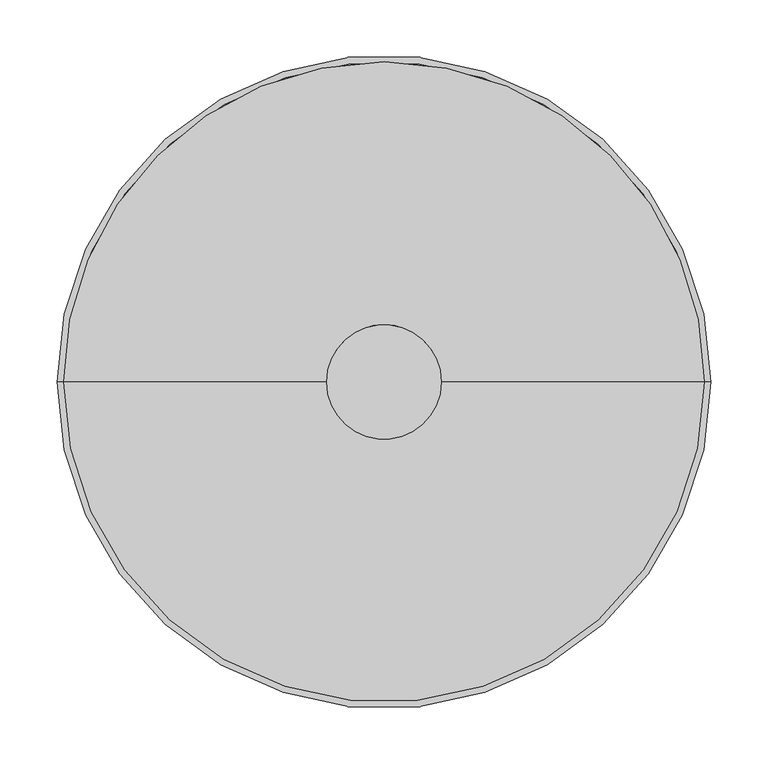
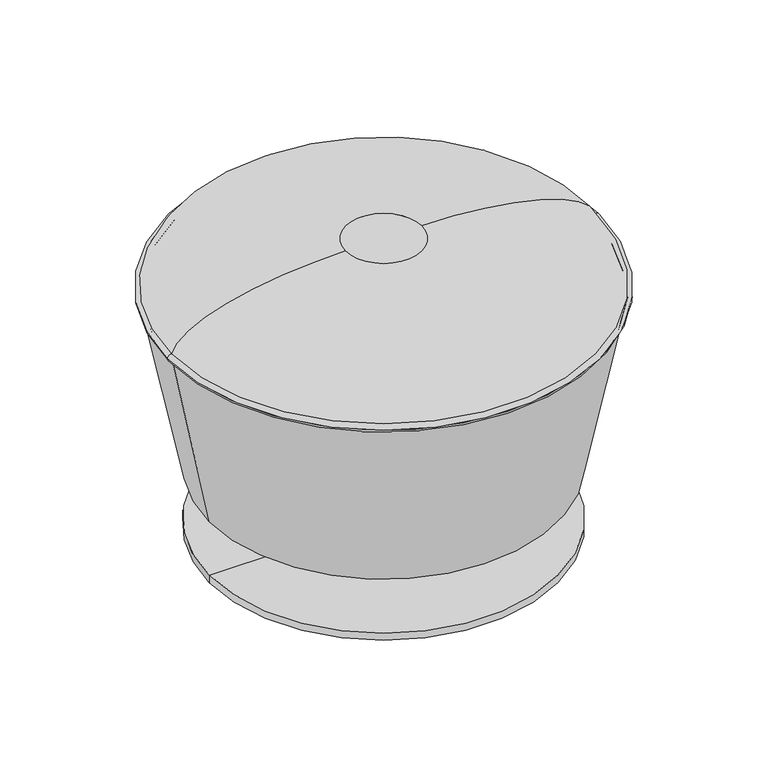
"""IFC4 building model written with IfcOpenShell, lengths in millimetres: furniture geometry, folies_bergere_2202 : folies_bergere_2202."""

from ifc_helpers import new_model, si_unit, point, frame, origin, place, context, project, spatial, polyline, circle_curve, ellipse_curve, trimmed, source, transform, mapped, element, save
from ifc_brep_helpers import plane_surface, cylinder_surface, revolved_surface, advanced_brep


def furniture_13e24988(model_context):
    return source(origin(), model_context, "Body", "AdvancedBrep", [
        advanced_brep(
        [(-50.0, 0.0, 399.6416858), (50.0, 0.0, 399.6416858), (275.0, 0.0, 331.4796982), (-275.0, 0.0, 331.4796982), (-279.3896078, 0.0, 336.4423005), (279.3896078, 0.0, 336.4423005), (-285.0, 0.0, 331.4796982), (285.0, 0.0, 331.4796982)],
        [
            (0, 1, circle_curve(frame((0.0, 0.0, 399.6416858), z_axis=(0.0, 0.0, 1.0), x_axis=(1.0, 0.0, 0.0)), 50.0)),
            (1, 0, circle_curve(frame((0.0, 0.0, 399.6416858), z_axis=(0.0, 0.0, 1.0), x_axis=(-1.0, 0.0, 0.0)), 50.0)),
            (2, 3, circle_curve(frame((0.0, 0.0, 331.4796982), z_axis=(0.0, 0.0, -1.0), x_axis=(1.0, 0.0, 0.0)), 275.0)),
            (3, 2, circle_curve(frame((0.0, 0.0, 331.4796982), z_axis=(0.0, 0.0, -1.0), x_axis=(-1.0, 0.0, 0.0)), 275.0)),
            (0, 4, ellipse_curve(frame((-50.0, 0.0, 331.4796982), z_axis=(0.0, -1.0, 0.0), x_axis=(-1.0, 0.0, 0.0)), 230.0, 68.1619876)),
            (4, 5, circle_curve(frame((0.0, 0.0, 336.4423005), z_axis=(0.0, 0.0, 1.0), x_axis=(1.0, 0.0, 0.0)), 279.3896078)),
            (5, 1, ellipse_curve(frame((50.0, 0.0, 331.4796982), z_axis=(0.0, -1.0, 0.0), x_axis=(1.0, 0.0, 0.0)), 230.0, 68.1619876)),
            (5, 4, circle_curve(frame((0.0, 0.0, 336.4423005), z_axis=(0.0, 0.0, 1.0), x_axis=(-1.0, 0.0, 0.0)), 279.3896078)),
            (6, 7, circle_curve(frame((0.0, 0.0, 331.4796982), z_axis=(0.0, 0.0, 1.0), x_axis=(1.0, 0.0, 0.0)), 285.0)),
            (7, 5, circle_curve(frame((280.0, 0.0, 331.4796982), z_axis=(0.0, -1.0, 0.0), x_axis=(1.0, 0.0, 0.0)), 5.0)),
            (4, 6, circle_curve(frame((-280.0, 0.0, 331.4796982), z_axis=(0.0, -1.0, 0.0), x_axis=(-1.0, 0.0, 0.0)), 5.0)),
            (6, 3, circle_curve(frame((-280.0, 0.0, 331.4796982), z_axis=(0.0, -1.0, 0.0), x_axis=(-1.0, 0.0, 0.0)), 5.0)),
            (2, 7, circle_curve(frame((280.0, 0.0, 331.4796982), z_axis=(0.0, -1.0, 0.0), x_axis=(1.0, 0.0, 0.0)), 5.0)),
            (7, 6, circle_curve(frame((0.0, 0.0, 331.4796982), z_axis=(0.0, 0.0, 1.0), x_axis=(-1.0, 0.0, 0.0)), 285.0)),
        ],
        [
            plane_surface(frame((16.25, 0.0, 399.6416858), z_axis=(0.0, 0.0, 1.0), x_axis=(0.0, 1.0, 0.0))),
            plane_surface(frame((16.25, 0.0, 331.4796982), z_axis=(0.0, 0.0, -1.0), x_axis=(0.0, -1.0, 0.0))),
            revolved_surface(trimmed(ellipse_curve(frame((50.0, 0.0, 331.4796982), z_axis=(0.0, 1.0, 0.0), x_axis=(1.0, 0.0, 0.0)), 230.0, 68.1619876), [point((50.0, 0.0, 399.6416858))], [point((280.0, 0.0, 331.4796982))], True, "CARTESIAN"), (0.0, 0.0, 331.4796982), (0.0, 0.0, -1.0)),
            revolved_surface(trimmed(ellipse_curve(frame((-50.0, 0.0, 331.4796982), z_axis=(0.0, -1.0, 0.0), x_axis=(-1.0, 0.0, 0.0)), 230.0, 68.1619876), [point((-50.0, 0.0, 399.6416858))], [point((-280.0, 0.0, 331.4796982))], True, "CARTESIAN"), (0.0, 0.0, 331.4796982), (0.0, 0.0, -1.0)),
            revolved_surface(trimmed(ellipse_curve(frame((280.0, 0.0, 331.4796982), z_axis=(0.0, 1.0, 0.0), x_axis=(1.0, 0.0, 0.0)), 5.0, 5.0), [point((275.0, 0.0, 331.4796982))], [point((285.0, 0.0, 331.4796982))], True, "CARTESIAN"), (0.0, 0.0, 331.4796982), (0.0, 0.0, -1.0)),
            revolved_surface(trimmed(ellipse_curve(frame((280.0, 0.0, 331.4796982), z_axis=(0.0, 1.0, 0.0), x_axis=(1.0, 0.0, 0.0)), 5.0, 5.0), [point((285.0, 0.0, 331.4796982))], [point((275.0, 0.0, 331.4796982))], True, "CARTESIAN"), (0.0, 0.0, 331.4796982), (0.0, 0.0, -1.0)),
            revolved_surface(trimmed(ellipse_curve(frame((-280.0, 0.0, 331.4796982), z_axis=(0.0, -1.0, 0.0), x_axis=(-1.0, 0.0, 0.0)), 5.0, 5.0), [point((-275.0, 0.0, 331.4796982))], [point((-285.0, 0.0, 331.4796982))], True, "CARTESIAN"), (0.0, 0.0, 331.4796982), (0.0, 0.0, -1.0)),
            revolved_surface(trimmed(ellipse_curve(frame((-280.0, 0.0, 331.4796982), z_axis=(0.0, -1.0, 0.0), x_axis=(-1.0, 0.0, 0.0)), 5.0, 5.0), [point((-285.0, 0.0, 331.4796982))], [point((-275.0, 0.0, 331.4796982))], True, "CARTESIAN"), (0.0, 0.0, 331.4796982), (0.0, 0.0, -1.0)),
        ],
        [
            (0, [[1, 2]]),
            (1, [[3, 4]]),
            (2, [[-1, 5, 6, 7]]),
            (3, [[-2, -7, 8, -5]]),
            (4, [[9, 10, -6, 11]]),
            (5, [[-9, 12, -3, 13]]),
            (6, [[14, -11, -8, -10]]),
            (7, [[-13, -4, -12, -14]]),
        ],
    ),
        advanced_brep(
        [(-280.0, 0.0, 331.4796982), (280.0, 0.0, 331.4796982), (-230.0, 0.0, 85.0), (230.0, 0.0, 85.0)],
        [
            (0, 1, circle_curve(frame((0.0, 0.0, 331.4796982), z_axis=(0.0, 0.0, 1.0), x_axis=(-1.0, 0.0, 0.0)), 280.0)),
            (1, 0, circle_curve(frame((0.0, 0.0, 331.4796982), z_axis=(0.0, 0.0, 1.0), x_axis=(1.0, 0.0, 0.0)), 280.0)),
            (2, 3, circle_curve(frame((0.0, 0.0, 85.0), z_axis=(0.0, 0.0, -1.0), x_axis=(1.0, 0.0, 0.0)), 230.0)),
            (3, 2, circle_curve(frame((0.0, 0.0, 85.0), z_axis=(0.0, 0.0, -1.0), x_axis=(-1.0, 0.0, 0.0)), 230.0)),
            (3, 1),
            (0, 2),
        ],
        [
            plane_surface(frame((0.0, 0.0, 331.4796982), z_axis=(0.0, 0.0, 1.0), x_axis=(0.0, -1.0, 0.0))),
            plane_surface(frame((0.0, 0.0, 85.0), z_axis=(0.0, 0.0, -1.0), x_axis=(0.0, -1.0, 0.0))),
            revolved_surface(polyline([(229.99999999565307, 0.0, 85.0), (280.0, 0.0, 331.47969820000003)]), (0.0, 0.0, -1048.8066116), (0.0, 0.0, 1.0)),
            revolved_surface(polyline([(-229.99999999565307, 0.0, 85.0), (-280.0, 0.0, 331.47969820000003)]), (0.0, 0.0, -1048.8066116), (0.0, 0.0, 1.0)),
        ],
        [
            (0, [[1, 2]]),
            (1, [[3, 4]]),
            (2, [[-4, 5, -1, 6]]),
            (3, [[-3, -6, -2, -5]]),
        ],
    ),
        advanced_brep(
        [(27.0, 0.0, 10.0), (-27.0, 0.0, 10.0), (-27.0, 0.0, 25.0), (27.0, 0.0, 25.0), (230.0, 0.0, 10.0), (-230.0, 0.0, 10.0), (0.0, 0.0, 0.0), (-230.0, 0.0, 0.0), (230.0, 0.0, 0.0), (20.0, 0.0, 146.7193879), (-20.0, 0.0, 146.7193879), (0.0, 0.0, 146.7193879), (20.0, 0.0, 25.0), (-20.0, 0.0, 25.0)],
        [
            (0, 1, circle_curve(frame((0.0, 0.0, 10.0), z_axis=(0.0, 0.0, 1.0), x_axis=(-1.0, 0.0, 0.0)), 27.0)),
            (1, 2),
            (2, 3, circle_curve(frame((0.0, 0.0, 25.0), z_axis=(0.0, 0.0, -1.0), x_axis=(-1.0, 0.0, 0.0)), 27.0)),
            (3, 0),
            (1, 0, circle_curve(frame((0.0, 0.0, 10.0), z_axis=(0.0, 0.0, 1.0), x_axis=(-1.0, 0.0, 0.0)), 27.0)),
            (3, 2, circle_curve(frame((0.0, 0.0, 25.0), z_axis=(0.0, 0.0, -1.0), x_axis=(-1.0, 0.0, 0.0)), 27.0)),
            (4, 5, circle_curve(frame((0.0, 0.0, 10.0), z_axis=(0.0, 0.0, 1.0), x_axis=(-1.0, 0.0, 0.0)), 230.0)),
            (5, 1),
            (0, 4),
            (5, 4, circle_curve(frame((0.0, 0.0, 10.0), z_axis=(0.0, 0.0, 1.0), x_axis=(-1.0, 0.0, 0.0)), 230.0)),
            (6, 7),
            (7, 8, circle_curve(frame((0.0, 0.0, 0.0), z_axis=(0.0, 0.0, -1.0), x_axis=(-1.0, 0.0, 0.0)), 230.0)),
            (8, 6),
            (8, 7, circle_curve(frame((0.0, 0.0, 0.0), z_axis=(0.0, 0.0, -1.0), x_axis=(-1.0, 0.0, 0.0)), 230.0)),
            (9, 10, circle_curve(frame((0.0, 0.0, 146.7193879), z_axis=(0.0, 0.0, 1.0), x_axis=(-1.0, 0.0, 0.0)), 20.0)),
            (10, 11),
            (11, 9),
            (10, 9, circle_curve(frame((0.0, 0.0, 146.7193879), z_axis=(0.0, 0.0, 1.0), x_axis=(-1.0, 0.0, 0.0)), 20.0)),
            (7, 5),
            (4, 8),
            (12, 13, circle_curve(frame((0.0, 0.0, 25.0), z_axis=(0.0, 0.0, 1.0), x_axis=(-1.0, 0.0, 0.0)), 20.0)),
            (13, 10),
            (9, 12),
            (13, 12, circle_curve(frame((0.0, 0.0, 25.0), z_axis=(0.0, 0.0, 1.0), x_axis=(-1.0, 0.0, 0.0)), 20.0)),
            (2, 13),
            (12, 3),
        ],
        [
            cylinder_surface(frame((0.0, 0.0, 448.5412813), z_axis=(0.0, 0.0, -1.0), x_axis=(-1.0, 0.0, 0.0)), 27.0),
            plane_surface(frame((0.0, 0.0, 10.0), z_axis=(0.0, 0.0, 1.0), x_axis=(-1.0, 0.0, 0.0))),
            plane_surface(frame((0.0, 0.0, 0.0), z_axis=(0.0, 0.0, -1.0), x_axis=(-1.0, 0.0, 0.0))),
            plane_surface(frame((0.0, 0.0, 146.7193879), z_axis=(0.0, 0.0, 1.0), x_axis=(-1.0, 0.0, 0.0))),
            cylinder_surface(frame((0.0, 0.0, 448.5412813), z_axis=(0.0, 0.0, -1.0), x_axis=(-1.0, 0.0, 0.0)), 230.0),
            cylinder_surface(frame((0.0, 0.0, 448.5412813), z_axis=(0.0, 0.0, -1.0), x_axis=(-1.0, 0.0, 0.0)), 20.0),
            plane_surface(frame((0.0, 0.0, 25.0), z_axis=(0.0, 0.0, 1.0), x_axis=(-1.0, 0.0, 0.0))),
        ],
        [
            (0, [[1, 2, 3, 4]]),
            (0, [[5, -4, 6, -2]]),
            (1, [[7, 8, -1, 9]]),
            (1, [[10, -9, -5, -8]]),
            (2, [[11, 12, 13]]),
            (2, [[-13, 14, -11]]),
            (3, [[15, 16, 17]]),
            (3, [[18, -17, -16]]),
            (4, [[-12, 19, -7, 20]]),
            (4, [[-14, -20, -10, -19]]),
            (5, [[21, 22, -15, 23]]),
            (5, [[24, -23, -18, -22]]),
            (6, [[-3, 25, -21, 26]]),
            (6, [[-6, -26, -24, -25]]),
        ],
    ),
    ])


if __name__ == "__main__":
    model = new_model("IFC4")
    model_context = context("Model", 3, world=origin())
    ifc_project = project(units=[si_unit("LENGTHUNIT", "METRE", prefix="MILLI")], contexts=[model_context])
    site = spatial("IfcSite", under=ifc_project)
    building = spatial("IfcBuilding", under=site)
    placement = place(None, origin())
    furniture_shape = furniture_13e24988(model_context)
    element("IfcFurniture", 1, ObjectType="folies_bergere_2202 : folies_bergere_2202", at=placement, inside=building, context=model_context, shape_type="MappedRepresentation", body=[
        mapped(furniture_shape, transform((0.0, 0.0, 0.0), x_axis=(1.0, 0.0, 0.0), y_axis=(0.0, 1.0, 0.0), z_axis=(0.0, 0.0, 1.0))),
    ])
    save(model, "model.ifc")
